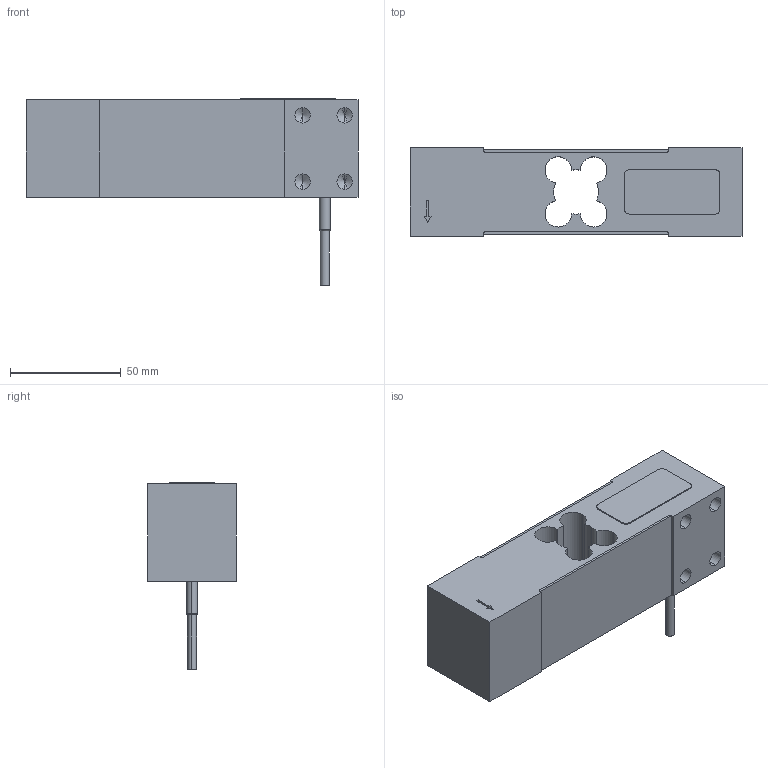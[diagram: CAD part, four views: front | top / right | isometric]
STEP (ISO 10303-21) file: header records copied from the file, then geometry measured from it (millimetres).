
FILE_DESCRIPTION(('FreeCAD Model'),'2;1');
FILE_NAME('Open CASCADE Shape Model','2025-01-29T11:27:57',('Author'),( ''),'Open CASCADE STEP processor 7.6','FreeCAD','Unknown');
FILE_SCHEMA(('AUTOMOTIVE_DESIGN { 1 0 10303 214 1 1 1 1 }'));
Length unit declared in the file: millimetre
Products named in the file (5): NA4 assembly; 200kg element NA4; Silicon layer; Silicon layer2; Cable
Assembly tree (5 placements, depth 2):
  NA4 assembly
    200kg element NA4
    Silicon layer  x2
    Silicon layer2
    Cable
Bounding box: 150 x 40 x 84.32 mm (x, y, z)
Volume: 219149.5 mm3; surface area: 56304.6 mm2
Topology: 5 solids, 5 shells, 120 faces, 300 edges, 183 vertices
Faces by surface type: cylinder 51, plane 47, cone 20, torus 2
Entity records: 3375 total; most frequent: DIRECTION 602, CARTESIAN_POINT 553, ORIENTED_EDGE 528, EDGE_CURVE 264, AXIS2_PLACEMENT_3D 220, VERTEX_POINT 171, LINE 162, VECTOR 162
